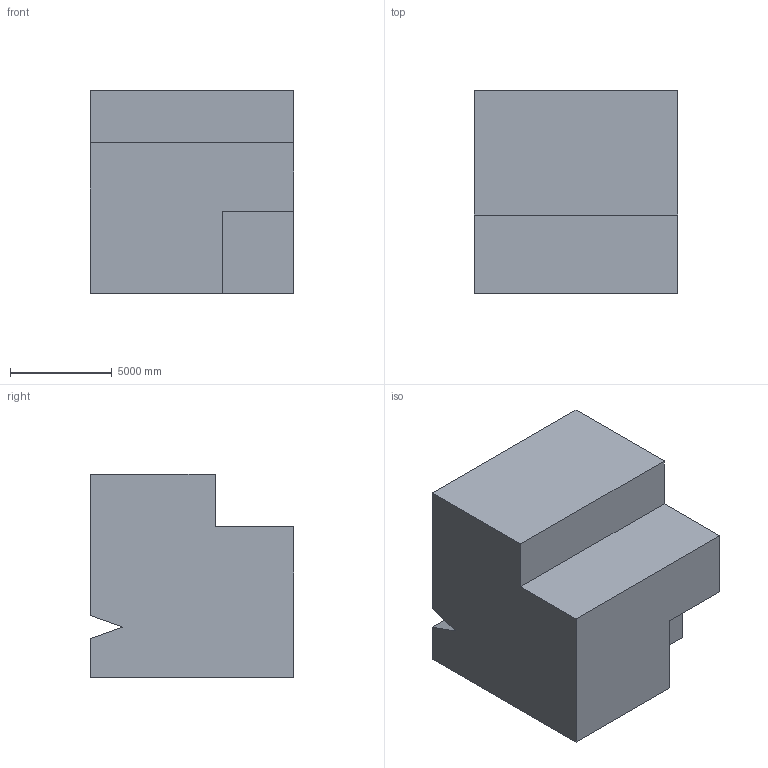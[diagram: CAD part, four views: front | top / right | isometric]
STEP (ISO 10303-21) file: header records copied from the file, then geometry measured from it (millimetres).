
FILE_DESCRIPTION (( 'STEP AP203' ), '1' );
FILE_NAME ('64.STEP', '2022-08-31T11:21:47', ( 'user' ), ( '' ), 'SwSTEP 2.0', 'SolidWorks 2021', '' );
FILE_SCHEMA (( 'CONFIG_CONTROL_DESIGN' ));
Length unit declared in the file: centimetre
Products named in the file (1): 64
Bounding box: 10000 x 10000 x 10000 mm (x, y, z)
Volume: 840987215362.6 mm3; surface area: 624333767.7 mm2
Topology: 1 solids, 1 shells, 20 faces, 54 edges, 36 vertices
Faces by surface type: plane 20
Entity records: 695 total; most frequent: CARTESIAN_POINT 111, ORIENTED_EDGE 108, DIRECTION 96, VECTOR 54, LINE 54, EDGE_CURVE 54, VERTEX_POINT 36, AXIS2_PLACEMENT_3D 21
